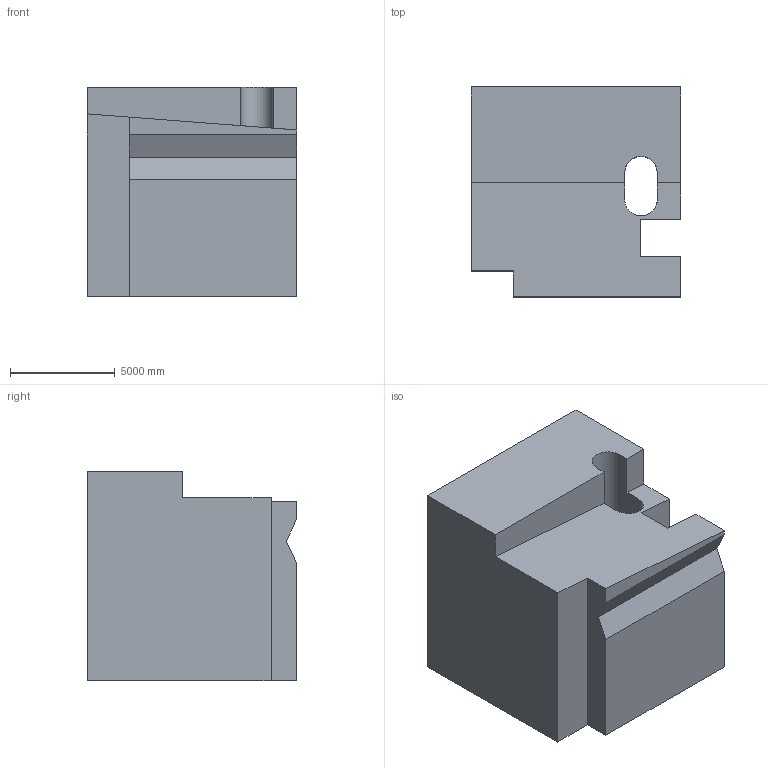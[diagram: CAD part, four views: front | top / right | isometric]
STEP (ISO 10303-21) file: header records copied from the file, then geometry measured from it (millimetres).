
FILE_DESCRIPTION (( 'STEP AP203' ), '1' );
FILE_NAME ('466.STEP', '2022-08-04T14:26:24', ( 'user' ), ( '' ), 'SwSTEP 2.0', 'SolidWorks 2021', '' );
FILE_SCHEMA (( 'CONFIG_CONTROL_DESIGN' ));
Length unit declared in the file: centimetre
Products named in the file (1): 466
Bounding box: 10000 x 10000 x 10000 mm (x, y, z)
Volume: 822312996409 mm3; surface area: 657877381.1 mm2
Topology: 1 solids, 1 shells, 22 faces, 63 edges, 42 vertices
Faces by surface type: plane 20, cylinder 2
Entity records: 791 total; most frequent: CARTESIAN_POINT 131, ORIENTED_EDGE 126, DIRECTION 111, EDGE_CURVE 63, VECTOR 59, LINE 59, VERTEX_POINT 42, AXIS2_PLACEMENT_3D 26
